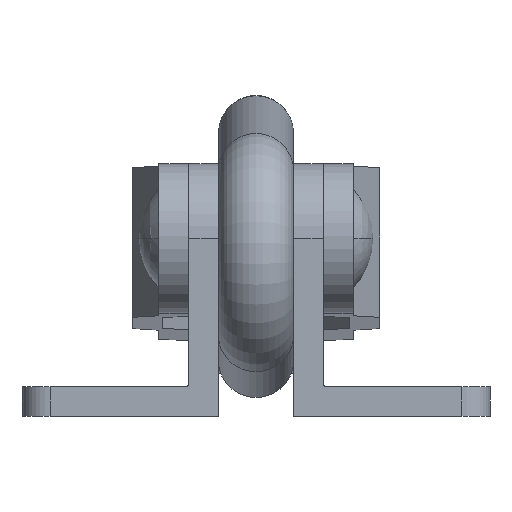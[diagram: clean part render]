
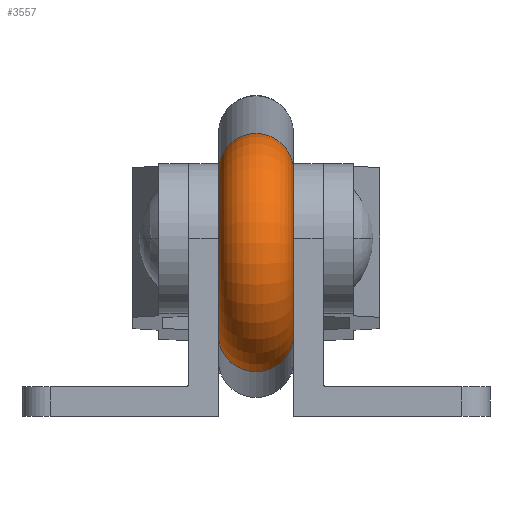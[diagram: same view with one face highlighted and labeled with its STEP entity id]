
A CAD part, front view. The second image highlights one B-rep face of the part: STEP entity #3557.
In plain terms, the highlighted toroidal (fillet/blend) face has major radius 9 mm and minor radius 4 mm.
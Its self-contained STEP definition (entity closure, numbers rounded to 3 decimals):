
#3493=CARTESIAN_POINT('Cartesian Point',(-4.,-68.364,8.629)) ;
#3500=CARTESIAN_POINT('Cartesian Point',(4.,-68.364,8.629)) ;
#3515=CARTESIAN_POINT('Axis2P3D Location',(0.,-68.364,8.629)) ;
#3527=CARTESIAN_POINT('Axis2P3D Location',(0.,-65.883,17.28)) ;
#3532=CARTESIAN_POINT('Axis2P3D Location',(4.,-65.883,17.28)) ;
#3536=CARTESIAN_POINT('Cartesian Point',(4.,-66.589,26.253)) ;
#3539=CARTESIAN_POINT('Axis2P3D Location',(0.,-66.589,26.253)) ;
#3543=CARTESIAN_POINT('Cartesian Point',(-4.,-66.589,26.253)) ;
#3546=CARTESIAN_POINT('Axis2P3D Location',(-4.,-65.883,17.28)) ;
#3516=DIRECTION('Axis2P3D Direction',(0.,-0.961,0.276)) ;
#3528=DIRECTION('Axis2P3D Direction',(-1.,0.,0.)) ;
#3529=DIRECTION('Axis2P3D XDirection',(0.,-0.276,-0.961)) ;
#3533=DIRECTION('Axis2P3D Direction',(-1.,0.,0.)) ;
#3540=DIRECTION('Axis2P3D Direction',(0.,-0.997,-0.078)) ;
#3547=DIRECTION('Axis2P3D Direction',(-1.,0.,0.)) ;
#3517=AXIS2_PLACEMENT_3D('Circle Axis2P3D',#3515,#3516,$) ;
#3530=AXIS2_PLACEMENT_3D('Torus Axis2P3D',#3527,#3528,#3529) ;
#3534=AXIS2_PLACEMENT_3D('Circle Axis2P3D',#3532,#3533,$) ;
#3541=AXIS2_PLACEMENT_3D('Circle Axis2P3D',#3539,#3540,$) ;
#3548=AXIS2_PLACEMENT_3D('Circle Axis2P3D',#3546,#3547,$) ;
#3552=ORIENTED_EDGE('Oriented Edge',*,*,#3519,.T.) ;
#3553=ORIENTED_EDGE('Oriented Edge',*,*,#3538,.T.) ;
#3554=ORIENTED_EDGE('Oriented Edge',*,*,#3545,.T.) ;
#3555=ORIENTED_EDGE('Oriented Edge',*,*,#3550,.F.) ;
#3557=ADVANCED_FACE('',(#3556),#3531,.T.) ;
#3518=CIRCLE('generated circle',#3517,4.) ;
#3535=CIRCLE('generated circle',#3534,9.) ;
#3542=CIRCLE('generated circle',#3541,4.) ;
#3549=CIRCLE('generated circle',#3548,9.) ;
#3531=TOROIDAL_SURFACE('homeo Torus',#3530,9.,4.) ;
#3519=EDGE_CURVE('',#3494,#3501,#3518,.T.) ;
#3538=EDGE_CURVE('',#3501,#3537,#3535,.T.) ;
#3545=EDGE_CURVE('',#3537,#3544,#3542,.T.) ;
#3550=EDGE_CURVE('',#3494,#3544,#3549,.T.) ;
#3551=EDGE_LOOP('Oriented Loop',(#3552,#3553,#3554,#3555)) ;
#3556=FACE_OUTER_BOUND('Face Bound',#3551,.T.) ;
#3494=VERTEX_POINT('Vertex Point',#3493) ;
#3501=VERTEX_POINT('Vertex Point',#3500) ;
#3537=VERTEX_POINT('Vertex Point',#3536) ;
#3544=VERTEX_POINT('Vertex Point',#3543) ;
